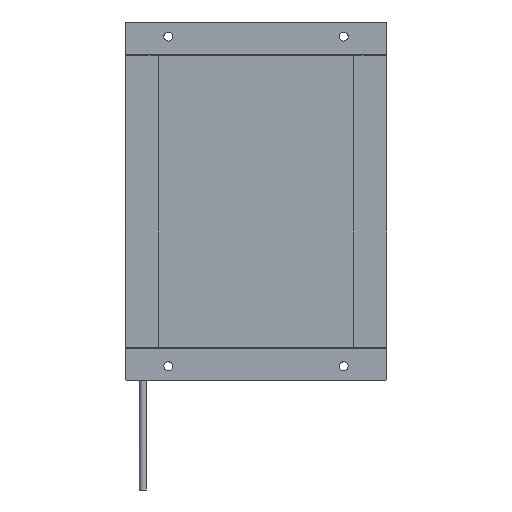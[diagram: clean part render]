
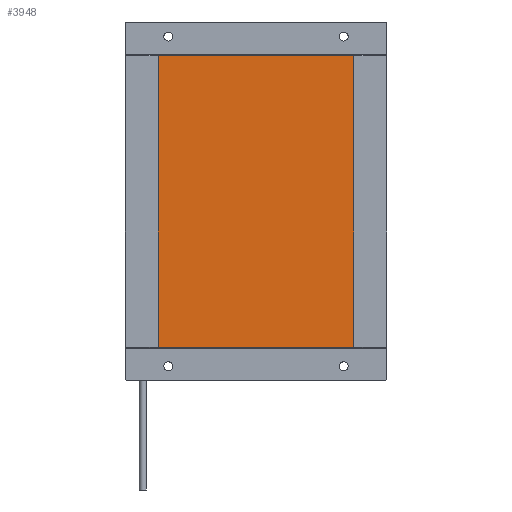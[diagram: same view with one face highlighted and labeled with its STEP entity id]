
A CAD part, front view. The second image highlights one B-rep face of the part: STEP entity #3948.
In plain terms, the highlighted planar face has unit normal (0, -1, 0).
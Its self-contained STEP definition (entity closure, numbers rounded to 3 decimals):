
#994=DIRECTION('',(0.707,0.,-0.707));
#995=VECTOR('',#994,0.283);
#996=CARTESIAN_POINT('',(50.,-7.5,-74.8));
#997=LINE('',#996,#995);
#1006=DIRECTION('',(1.,0.,0.));
#1007=VECTOR('',#1006,100.4);
#1008=CARTESIAN_POINT('',(-50.2,-7.5,75.));
#1009=LINE('',#1008,#1007);
#1022=DIRECTION('',(-0.707,0.,0.707));
#1023=VECTOR('',#1022,0.283);
#1024=CARTESIAN_POINT('',(-50.,-7.5,74.8));
#1025=LINE('',#1024,#1023);
#1026=DIRECTION('',(0.,0.,1.));
#1027=VECTOR('',#1026,149.6);
#1028=CARTESIAN_POINT('',(-50.,-7.5,-74.8));
#1029=LINE('',#1028,#1027);
#1042=DIRECTION('',(-0.707,0.,-0.707));
#1043=VECTOR('',#1042,0.283);
#1044=CARTESIAN_POINT('',(-50.,-7.5,-74.8));
#1045=LINE('',#1044,#1043);
#1054=DIRECTION('',(-1.,0.,0.));
#1055=VECTOR('',#1054,100.4);
#1056=CARTESIAN_POINT('',(50.2,-7.5,-75.));
#1057=LINE('',#1056,#1055);
#1094=DIRECTION('',(0.707,0.,0.707));
#1095=VECTOR('',#1094,0.283);
#1096=CARTESIAN_POINT('',(50.,-7.5,74.8));
#1097=LINE('',#1096,#1095);
#1130=DIRECTION('',(0.,0.,-1.));
#1131=VECTOR('',#1130,149.6);
#1132=CARTESIAN_POINT('',(50.,-7.5,74.8));
#1133=LINE('',#1132,#1131);
#2581=CARTESIAN_POINT('',(-50.2,-7.5,75.));
#2582=CARTESIAN_POINT('',(50.2,-7.5,75.));
#2583=VERTEX_POINT('',#2581);
#2584=VERTEX_POINT('',#2582);
#2585=CARTESIAN_POINT('',(-50.,-7.5,-74.8));
#2586=CARTESIAN_POINT('',(-50.,-7.5,74.8));
#2587=VERTEX_POINT('',#2585);
#2588=VERTEX_POINT('',#2586);
#2589=CARTESIAN_POINT('',(-50.2,-7.5,-75.));
#2590=VERTEX_POINT('',#2589);
#2591=CARTESIAN_POINT('',(50.,-7.5,74.8));
#2592=CARTESIAN_POINT('',(50.,-7.5,-74.8));
#2593=VERTEX_POINT('',#2591);
#2594=VERTEX_POINT('',#2592);
#2595=CARTESIAN_POINT('',(50.2,-7.5,-75.));
#2596=VERTEX_POINT('',#2595);
#3926=CARTESIAN_POINT('',(0.,-7.5,0.));
#3927=DIRECTION('',(0.,-1.,0.));
#3928=DIRECTION('',(0.,0.,-1.));
#3929=AXIS2_PLACEMENT_3D('',#3926,#3927,#3928);
#3930=PLANE('',#3929);
#3932=ORIENTED_EDGE('',*,*,#3931,.T.);
#3934=ORIENTED_EDGE('',*,*,#3933,.F.);
#3936=ORIENTED_EDGE('',*,*,#3935,.T.);
#3937=ORIENTED_EDGE('',*,*,#3914,.T.);
#3939=ORIENTED_EDGE('',*,*,#3938,.T.);
#3941=ORIENTED_EDGE('',*,*,#3940,.F.);
#3943=ORIENTED_EDGE('',*,*,#3942,.T.);
#3945=ORIENTED_EDGE('',*,*,#3944,.T.);
#3946=EDGE_LOOP('',(#3932,#3934,#3936,#3937,#3939,#3941,#3943,#3945));
#3947=FACE_OUTER_BOUND('',#3946,.F.);
#3914=EDGE_CURVE('',#2594,#2596,#997,.T.);
#3931=EDGE_CURVE('',#2583,#2584,#1009,.T.);
#3933=EDGE_CURVE('',#2593,#2584,#1097,.T.);
#3935=EDGE_CURVE('',#2593,#2594,#1133,.T.);
#3938=EDGE_CURVE('',#2596,#2590,#1057,.T.);
#3940=EDGE_CURVE('',#2587,#2590,#1045,.T.);
#3942=EDGE_CURVE('',#2587,#2588,#1029,.T.);
#3944=EDGE_CURVE('',#2588,#2583,#1025,.T.);
#3948=ADVANCED_FACE('',(#3947),#3930,.T.);
